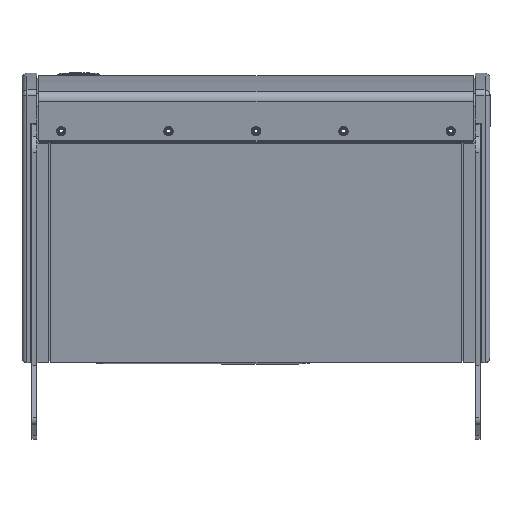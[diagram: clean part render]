
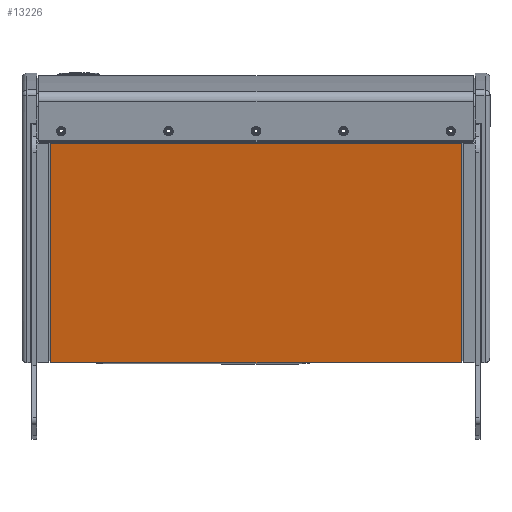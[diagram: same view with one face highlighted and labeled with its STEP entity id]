
A CAD part, front view. The second image highlights one B-rep face of the part: STEP entity #13226.
In plain terms, the highlighted planar face has unit normal (0, -0.985, -0.174) as drawn and (0, 0, -1) by its records, which use the part's own axes.
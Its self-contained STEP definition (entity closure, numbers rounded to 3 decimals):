
#2515 = PLANE ( 'NONE',  #15846 ) ;
#3027 = VECTOR ( 'NONE', #26650, 1000. ) ;
#3096 = DIRECTION ( 'NONE',  ( 1., 0., 0. ) ) ;
#3353 = EDGE_CURVE ( 'NONE', #8358, #7791, #17797, .T. ) ;
#5562 = VECTOR ( 'NONE', #27824, 1000. ) ;
#5741 = CARTESIAN_POINT ( 'NONE',  ( -155.727, 270.256, -18.288 ) ) ;
#7164 = FACE_OUTER_BOUND ( 'NONE', #25077, .T. ) ;
#7323 = LINE ( 'NONE', #5741, #5562 ) ;
#7791 = VERTEX_POINT ( 'NONE', #11627 ) ;
#8358 = VERTEX_POINT ( 'NONE', #18389 ) ;
#8574 = EDGE_CURVE ( 'NONE', #8358, #22326, #7323, .T. ) ;
#10257 = ORIENTED_EDGE ( 'NONE', *, *, #8574, .F. ) ;
#11627 = CARTESIAN_POINT ( 'NONE',  ( 128.118, 261.874, -18.288 ) ) ;
#12341 = VECTOR ( 'NONE', #3096, 1000. ) ;
#12604 = EDGE_CURVE ( 'NONE', #22326, #20656, #16869, .T. ) ;
#12804 = EDGE_CURVE ( 'NONE', #7791, #20656, #27621, .T. ) ;
#13226 = ADVANCED_FACE ( 'NONE', ( #7164 ), #2515, .F. ) ;
#13484 = CARTESIAN_POINT ( 'NONE',  ( 128.118, 270.256, -18.288 ) ) ;
#14544 = ORIENTED_EDGE ( 'NONE', *, *, #12604, .F. ) ;
#15846 = AXIS2_PLACEMENT_3D ( 'NONE', #31198, #28938, #24453 ) ;
#16033 = DIRECTION ( 'NONE',  ( 0., -1., 0. ) ) ;
#16410 = CARTESIAN_POINT ( 'NONE',  ( -155.727, -261.874, -18.288 ) ) ;
#16869 = LINE ( 'NONE', #16410, #3027 ) ;
#17797 = LINE ( 'NONE', #25020, #12341 ) ;
#18389 = CARTESIAN_POINT ( 'NONE',  ( -155.727, 261.874, -18.288 ) ) ;
#20656 = VERTEX_POINT ( 'NONE', #29073 ) ;
#21534 = ORIENTED_EDGE ( 'NONE', *, *, #12804, .T. ) ;
#22326 = VERTEX_POINT ( 'NONE', #29701 ) ;
#24453 = DIRECTION ( 'NONE',  ( 1., 0., 0. ) ) ;
#24510 = VECTOR ( 'NONE', #16033, 1000. ) ;
#25020 = CARTESIAN_POINT ( 'NONE',  ( -155.727, 261.874, -18.288 ) ) ;
#25077 = EDGE_LOOP ( 'NONE', ( #26429, #21534, #14544, #10257 ) ) ;
#26429 = ORIENTED_EDGE ( 'NONE', *, *, #3353, .T. ) ;
#26650 = DIRECTION ( 'NONE',  ( 1., 0., 0. ) ) ;
#27621 = LINE ( 'NONE', #13484, #24510 ) ;
#27824 = DIRECTION ( 'NONE',  ( 0., -1., 0. ) ) ;
#28938 = DIRECTION ( 'NONE',  ( 0., 0., 1. ) ) ;
#29073 = CARTESIAN_POINT ( 'NONE',  ( 128.118, -261.874, -18.288 ) ) ;
#29701 = CARTESIAN_POINT ( 'NONE',  ( -155.727, -261.874, -18.288 ) ) ;
#31198 = CARTESIAN_POINT ( 'NONE',  ( 128.118, 270.256, -18.288 ) ) ;
